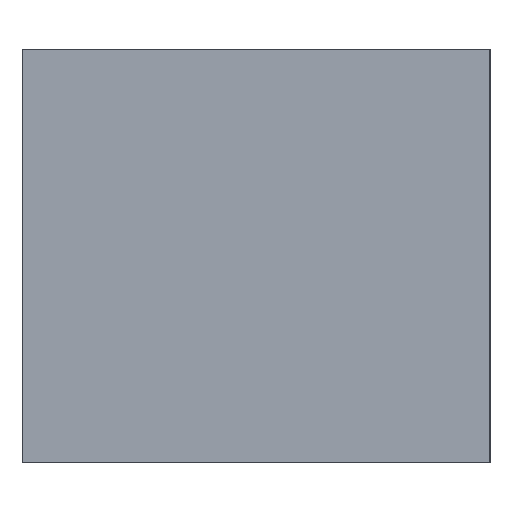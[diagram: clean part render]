
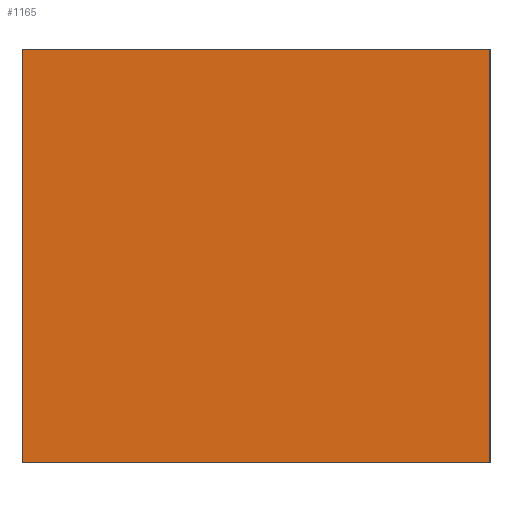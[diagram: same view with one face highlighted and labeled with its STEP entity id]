
A CAD part, left-side view. The second image highlights one B-rep face of the part: STEP entity #1165.
In plain terms, the highlighted planar face has unit normal (-1, 0, 0).
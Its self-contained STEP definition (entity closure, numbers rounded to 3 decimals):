
#41=DIRECTION('',(0.,0.,1.));
#42=VECTOR('',#41,46.);
#43=CARTESIAN_POINT('',(-36.,1026.,0.));
#44=LINE('',#43,#42);
#111=DIRECTION('',(0.,0.,-1.));
#112=VECTOR('',#111,46.);
#113=CARTESIAN_POINT('',(-36.,974.,46.));
#114=LINE('',#113,#112);
#221=DIRECTION('',(0.,-1.,0.));
#222=VECTOR('',#221,52.);
#223=CARTESIAN_POINT('',(-36.,1026.,0.));
#224=LINE('',#223,#222);
#225=DIRECTION('',(0.,1.,0.));
#226=VECTOR('',#225,52.);
#227=CARTESIAN_POINT('',(-36.,974.,46.));
#228=LINE('',#227,#226);
#769=CARTESIAN_POINT('',(-36.,1026.,0.));
#770=CARTESIAN_POINT('',(-36.,974.,0.));
#771=VERTEX_POINT('',#769);
#772=VERTEX_POINT('',#770);
#795=CARTESIAN_POINT('',(-36.,1026.,46.));
#796=VERTEX_POINT('',#795);
#854=CARTESIAN_POINT('',(-36.,974.,46.));
#855=VERTEX_POINT('',#854);
#1153=CARTESIAN_POINT('',(-36.,1000.,46.));
#1154=DIRECTION('',(-1.,0.,0.));
#1155=DIRECTION('',(0.,0.,1.));
#1156=AXIS2_PLACEMENT_3D('',#1153,#1154,#1155);
#1157=PLANE('',#1156);
#1158=ORIENTED_EDGE('',*,*,#1066,.T.);
#1159=ORIENTED_EDGE('',*,*,#1118,.F.);
#1160=ORIENTED_EDGE('',*,*,#951,.T.);
#1162=ORIENTED_EDGE('',*,*,#1161,.F.);
#1163=EDGE_LOOP('',(#1158,#1159,#1160,#1162));
#1164=FACE_OUTER_BOUND('',#1163,.F.);
#951=EDGE_CURVE('',#771,#796,#44,.T.);
#1066=EDGE_CURVE('',#855,#772,#114,.T.);
#1118=EDGE_CURVE('',#771,#772,#224,.T.);
#1161=EDGE_CURVE('',#855,#796,#228,.T.);
#1165=ADVANCED_FACE('',(#1164),#1157,.T.);
